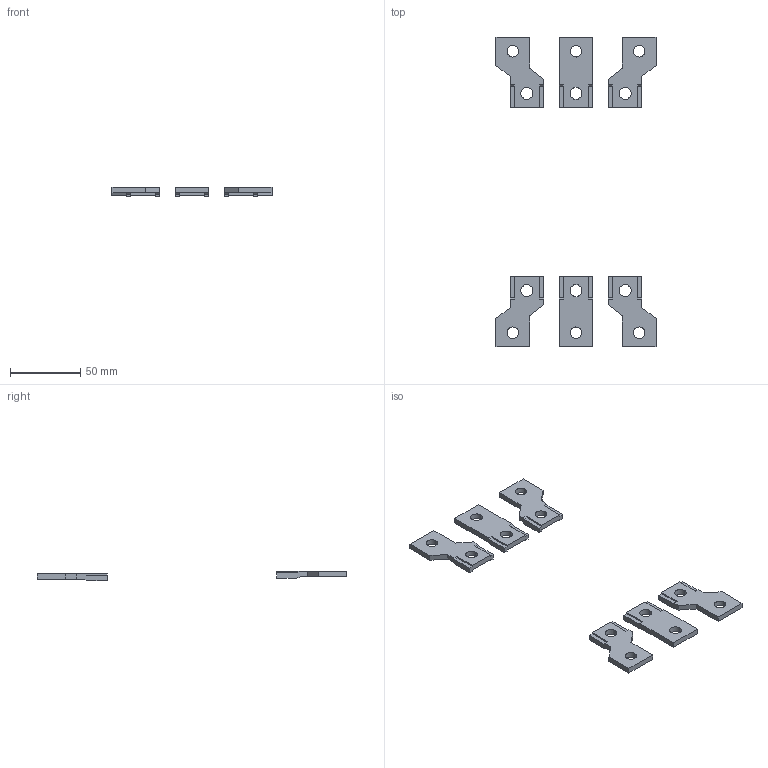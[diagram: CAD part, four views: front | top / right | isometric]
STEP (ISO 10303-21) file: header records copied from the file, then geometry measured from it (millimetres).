
FILE_DESCRIPTION (( 'STEP AP214' ), '1' );
FILE_NAME ('Ðàñøèðèòåëè ïîëþñîâ OptiMat D100, D160, D250.STEP', '2023-04-26T11:38:28', ( '' ), ( '' ), 'SwSTEP 2.0', 'SolidWorks 2018', '' );
FILE_SCHEMA (( 'AUTOMOTIVE_DESIGN' ));
Length unit declared in the file: millimetre
Products named in the file (1): Ðàñøèðèòåëè ïîëþñîâ OptiMat D100, D160, D250
Bounding box: 114 x 220.45 x 6.7 mm (x, y, z)
Volume: 25862.3 mm3; surface area: 18291.1 mm2
Topology: 6 solids, 6 shells, 148 faces, 408 edges, 272 vertices
Faces by surface type: plane 112, cylinder 36
Entity records: 6439 total; most frequent: CARTESIAN_POINT 829, ORIENTED_EDGE 816, DIRECTION 778, EDGE_CURVE 408, VECTOR 336, LINE 336, VERTEX_POINT 272, AXIS2_PLACEMENT_3D 221
